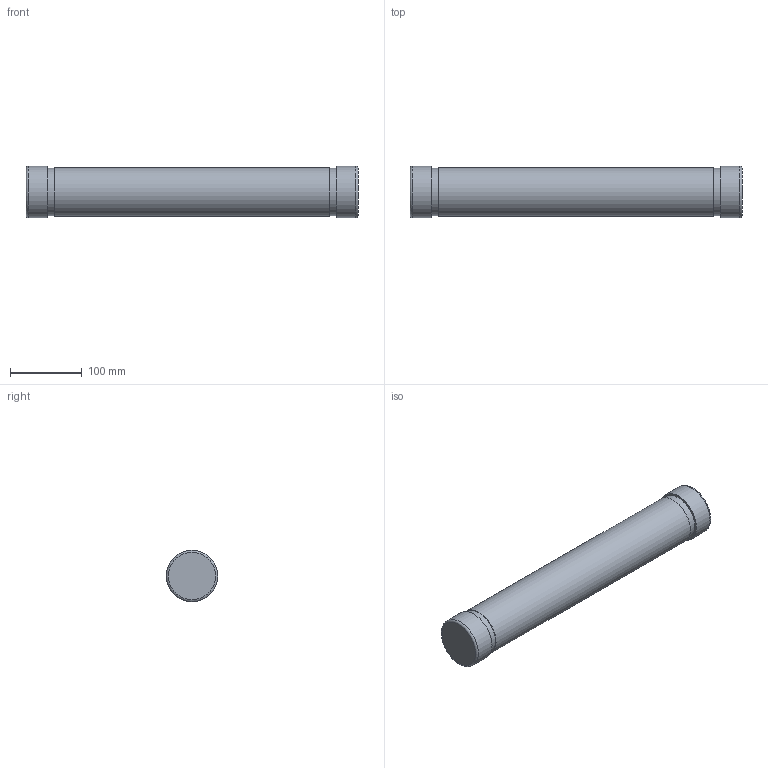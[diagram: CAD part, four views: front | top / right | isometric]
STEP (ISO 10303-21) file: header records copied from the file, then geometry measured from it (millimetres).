
FILE_DESCRIPTION (( 'STEP AP214' ), '1' );
FILE_NAME ('眈襝鍙 玾-1.2-10.STEP', '2023-03-03T10:53:27', ( '' ), ( '' ), 'SwSTEP 2.0', 'SolidWorks 2018', '' );
FILE_SCHEMA (( 'AUTOMOTIVE_DESIGN' ));
Length unit declared in the file: millimetre
Products named in the file (1): 眈襝鍙 玾-1.2-10
Bounding box: 464 x 72 x 72 mm (x, y, z)
Volume: 822849.3 mm3; surface area: 183638.8 mm2
Topology: 1 solids, 2 shells, 16 faces, 23 edges, 15 vertices
Faces by surface type: plane 8, cylinder 6, torus 2
Full cylindrical faces by diameter (mm): 50 x1, 66 x2, 68 x1, 72 x2
Entity records: 336 total; most frequent: DIRECTION 62, CARTESIAN_POINT 45, AXIS2_PLACEMENT_3D 31, ORIENTED_EDGE 28, EDGE_LOOP 28, FACE_OUTER_BOUND 24, ADVANCED_FACE 16, VERTEX_POINT 14
